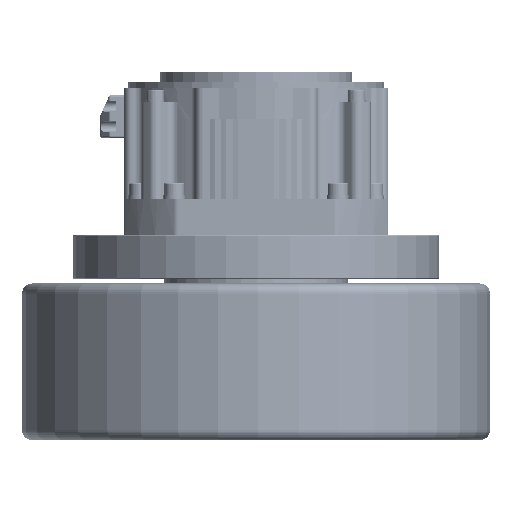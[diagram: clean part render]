
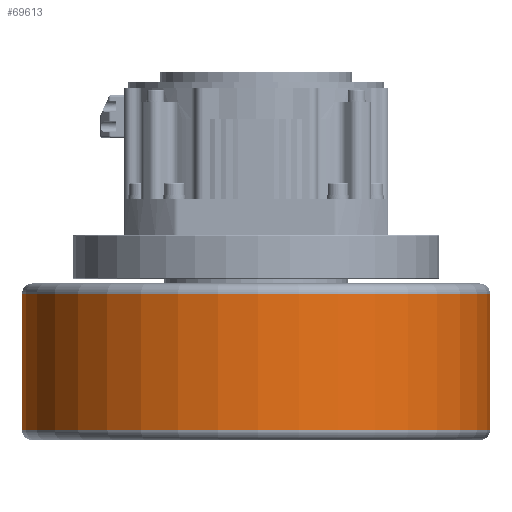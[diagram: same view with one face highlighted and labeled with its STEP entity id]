
A CAD part, front view. The second image highlights one B-rep face of the part: STEP entity #69613.
In plain terms, the highlighted cylindrical face has radius 115 mm (diameter 230 mm), a full revolution.
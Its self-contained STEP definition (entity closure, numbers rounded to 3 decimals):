
#2256=CYLINDRICAL_SURFACE('',#75080,115.);
#5736=FACE_OUTER_BOUND('',#9953,.T.);
#9953=EDGE_LOOP('',(#58913,#58914,#58915,#58916));
#12414=CIRCLE('',#75077,115.);
#12417=CIRCLE('',#75081,115.);
#19685=LINE('',#123648,#26447);
#26447=VECTOR('',#91575,115.);
#32410=VERTEX_POINT('',#123640);
#32412=VERTEX_POINT('',#123646);
#41500=EDGE_CURVE('',#32410,#32410,#12414,.T.);
#41503=EDGE_CURVE('',#32412,#32412,#12417,.T.);
#41504=EDGE_CURVE('',#32412,#32410,#19685,.T.);
#58913=ORIENTED_EDGE('',*,*,#41503,.F.);
#58914=ORIENTED_EDGE('',*,*,#41504,.T.);
#58915=ORIENTED_EDGE('',*,*,#41500,.T.);
#58916=ORIENTED_EDGE('',*,*,#41504,.F.);
#69613=ADVANCED_FACE('',(#5736),#2256,.T.);
#75077=AXIS2_PLACEMENT_3D('',#123641,#91565,#91566);
#75080=AXIS2_PLACEMENT_3D('',#123645,#91571,#91572);
#75081=AXIS2_PLACEMENT_3D('',#123647,#91573,#91574);
#91565=DIRECTION('center_axis',(-1.,0.,0.));
#91566=DIRECTION('ref_axis',(0.,0.,1.));
#91571=DIRECTION('center_axis',(-1.,0.,0.));
#91572=DIRECTION('ref_axis',(0.,0.,1.));
#91573=DIRECTION('center_axis',(-1.,0.,0.));
#91574=DIRECTION('ref_axis',(0.,0.,1.));
#91575=DIRECTION('',(1.,0.,0.));
#123640=CARTESIAN_POINT('',(72.,0.,-115.));
#123641=CARTESIAN_POINT('Origin',(72.,0.,0.));
#123645=CARTESIAN_POINT('Origin',(0.,0.,0.));
#123646=CARTESIAN_POINT('',(5.,0.,-115.));
#123647=CARTESIAN_POINT('Origin',(5.,0.,0.));
#123648=CARTESIAN_POINT('',(0.,0.,-115.));
